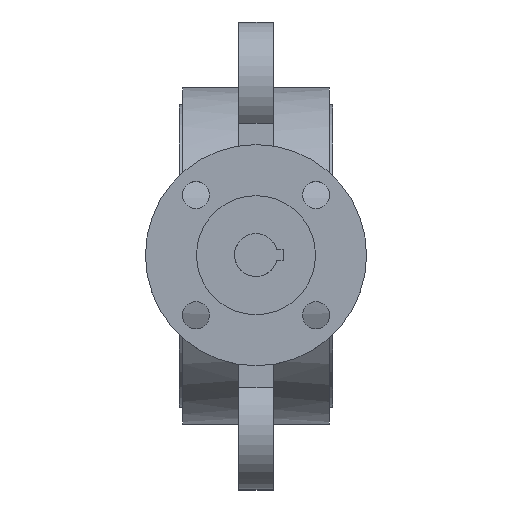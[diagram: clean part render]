
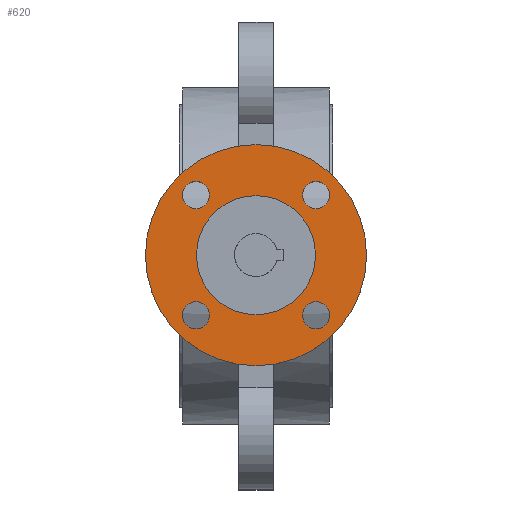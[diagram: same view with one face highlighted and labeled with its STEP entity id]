
A CAD part, top view. The second image highlights one B-rep face of the part: STEP entity #620.
In plain terms, the highlighted planar face has unit normal (0, 0, 1).
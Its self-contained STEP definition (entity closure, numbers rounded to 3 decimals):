
#620=ADVANCED_FACE('',(#1381,#1383,#1385,#1387,#1389,#1391),#1393,.T.);
#1381=FACE_BOUND('',#1382,.T.);
#1382=EDGE_LOOP('',(#1876));
#1383=FACE_BOUND('',#1384,.T.);
#1384=EDGE_LOOP('',(#1877));
#1385=FACE_BOUND('',#1386,.T.);
#1386=EDGE_LOOP('',(#1878));
#1387=FACE_BOUND('',#1388,.T.);
#1388=EDGE_LOOP('',(#1879));
#1389=FACE_BOUND('',#1390,.T.);
#1390=EDGE_LOOP('',(#1880));
#1391=FACE_BOUND('',#1392,.T.);
#1392=EDGE_LOOP('',(#1881));
#1393=PLANE('',#1394);
#1394=AXIS2_PLACEMENT_3D('',#1395,#1396,#1397);
#1395=CARTESIAN_POINT('',(0.,0.,138.));
#1396=DIRECTION('',(0.,0.,1.));
#1397=DIRECTION('',(0.,1.,0.));
#1876=ORIENTED_EDGE('',*,*,#2122,.F.);
#1877=ORIENTED_EDGE('',*,*,#2123,.T.);
#1878=ORIENTED_EDGE('',*,*,#2124,.T.);
#1879=ORIENTED_EDGE('',*,*,#2125,.T.);
#1880=ORIENTED_EDGE('',*,*,#2141,.T.);
#1881=ORIENTED_EDGE('',*,*,#2126,.T.);
#2122=EDGE_CURVE('',#2425,#2425,#2426,.T.);
#2123=EDGE_CURVE('',#2427,#2427,#2428,.F.);
#2124=EDGE_CURVE('',#2429,#2429,#2430,.F.);
#2125=EDGE_CURVE('',#2431,#2431,#2432,.F.);
#2126=EDGE_CURVE('',#2433,#2433,#2434,.F.);
#2141=EDGE_CURVE('',#2463,#2463,#2464,.T.);
#2425=VERTEX_POINT('',#4039);
#2426=CIRCLE('',#4040,32.5);
#2427=VERTEX_POINT('',#4044);
#2428=CIRCLE('',#4045,4.);
#2429=VERTEX_POINT('',#4049);
#2430=CIRCLE('',#4050,4.);
#2431=VERTEX_POINT('',#4054);
#2432=CIRCLE('',#4055,4.);
#2433=VERTEX_POINT('',#4059);
#2434=CIRCLE('',#4060,4.);
#2463=VERTEX_POINT('',#4127);
#2464=CIRCLE('',#4128,17.5);
#4039=CARTESIAN_POINT('',(0.,32.5,138.));
#4040=AXIS2_PLACEMENT_3D('',#4041,#4042,#4043);
#4041=CARTESIAN_POINT('',(0.,0.,138.));
#4042=DIRECTION('',(0.,0.,-1.));
#4043=DIRECTION('',(0.,1.,0.));
#4044=CARTESIAN_POINT('',(-13.678,-17.678,138.));
#4045=AXIS2_PLACEMENT_3D('',#4046,#4047,#4048);
#4046=CARTESIAN_POINT('',(-17.678,-17.678,138.));
#4047=DIRECTION('',(0.,0.,1.));
#4048=DIRECTION('',(1.,0.,0.));
#4049=CARTESIAN_POINT('',(-17.678,13.678,138.));
#4050=AXIS2_PLACEMENT_3D('',#4051,#4052,#4053);
#4051=CARTESIAN_POINT('',(-17.678,17.678,138.));
#4052=DIRECTION('',(0.,0.,1.));
#4053=DIRECTION('',(0.,-1.,0.));
#4054=CARTESIAN_POINT('',(13.678,17.678,138.));
#4055=AXIS2_PLACEMENT_3D('',#4056,#4057,#4058);
#4056=CARTESIAN_POINT('',(17.678,17.678,138.));
#4057=DIRECTION('',(0.,0.,1.));
#4058=DIRECTION('',(-1.,0.,0.));
#4059=CARTESIAN_POINT('',(17.678,-13.678,138.));
#4060=AXIS2_PLACEMENT_3D('',#4061,#4062,#4063);
#4061=CARTESIAN_POINT('',(17.678,-17.678,138.));
#4062=DIRECTION('',(0.,0.,1.));
#4063=DIRECTION('',(0.,1.,0.));
#4127=CARTESIAN_POINT('',(0.,17.5,138.));
#4128=AXIS2_PLACEMENT_3D('',#4129,#4130,#4131);
#4129=CARTESIAN_POINT('',(0.,0.,138.));
#4130=DIRECTION('',(0.,0.,-1.));
#4131=DIRECTION('',(0.,1.,0.));
